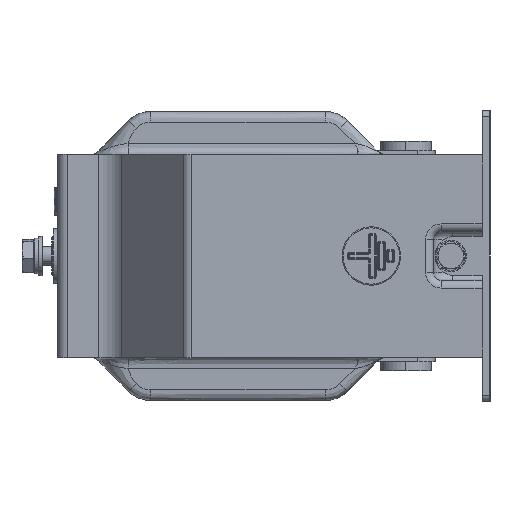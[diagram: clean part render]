
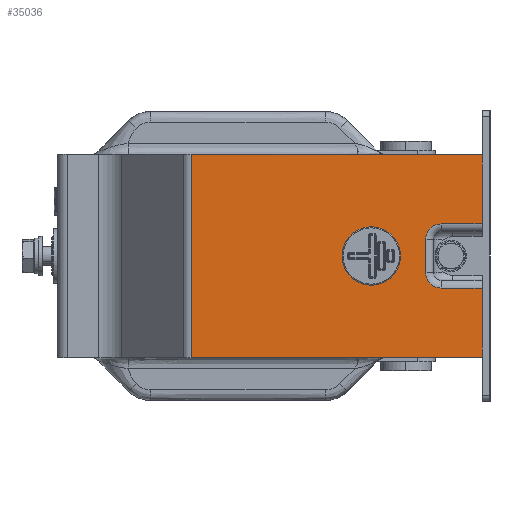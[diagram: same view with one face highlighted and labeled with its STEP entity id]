
A CAD part, left-side view. The second image highlights one B-rep face of the part: STEP entity #35036.
In plain terms, the highlighted planar face has unit normal (-1, 0, 0).
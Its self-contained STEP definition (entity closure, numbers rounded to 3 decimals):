
#50 = VECTOR ( 'NONE', #48100, 1000. ) ;
#58 = EDGE_CURVE ( 'NONE', #28257, #47570, #57443, .T. ) ;
#556 = AXIS2_PLACEMENT_3D ( 'NONE', #77695, #27725, #70510 ) ;
#1232 = CARTESIAN_POINT ( 'NONE',  ( -165.171, -88.907, -8.433 ) ) ;
#1970 = DIRECTION ( 'NONE',  ( 0., 0., 1. ) ) ;
#2813 = DIRECTION ( 'NONE',  ( 1., 0., 0. ) ) ;
#3089 = DIRECTION ( 'NONE',  ( 0., 0., 1. ) ) ;
#4465 = EDGE_CURVE ( 'NONE', #47570, #27252, #37593, .T. ) ;
#4760 = ORIENTED_EDGE ( 'NONE', *, *, #37218, .T. ) ;
#5373 = DIRECTION ( 'NONE',  ( 0., 1., 0. ) ) ;
#5819 = VECTOR ( 'NONE', #3089, 1000. ) ;
#5856 = VERTEX_POINT ( 'NONE', #32302 ) ;
#6320 = DIRECTION ( 'NONE',  ( 0., 1., 0. ) ) ;
#7568 = CARTESIAN_POINT ( 'NONE',  ( -165.171, -117.676, -16.369 ) ) ;
#8633 = LINE ( 'NONE', #40163, #5819 ) ;
#8844 = VECTOR ( 'NONE', #53177, 1000. ) ;
#9629 = VECTOR ( 'NONE', #5373, 1000. ) ;
#9776 = DIRECTION ( 'NONE',  ( 0., 0., -1. ) ) ;
#11292 = ORIENTED_EDGE ( 'NONE', *, *, #34760, .T. ) ;
#12463 = AXIS2_PLACEMENT_3D ( 'NONE', #51744, #15208, #46368 ) ;
#12892 = CARTESIAN_POINT ( 'NONE',  ( -165.171, -61.129, 0. ) ) ;
#14123 = CARTESIAN_POINT ( 'NONE',  ( -165.171, -117.676, 51.835 ) ) ;
#14411 = CIRCLE ( 'NONE', #72167, 7.937 ) ;
#14718 = CARTESIAN_POINT ( 'NONE',  ( -165.171, 30.741, 51.835 ) ) ;
#15208 = DIRECTION ( 'NONE',  ( 1., 0., 0. ) ) ;
#15993 = ORIENTED_EDGE ( 'NONE', *, *, #4465, .T. ) ;
#17665 = VERTEX_POINT ( 'NONE', #41436 ) ;
#19487 = VECTOR ( 'NONE', #39579, 1000. ) ;
#19879 = ORIENTED_EDGE ( 'NONE', *, *, #61930, .T. ) ;
#20893 = AXIS2_PLACEMENT_3D ( 'NONE', #52587, #71639, #77762 ) ;
#21512 = VERTEX_POINT ( 'NONE', #37732 ) ;
#21614 = VERTEX_POINT ( 'NONE', #7568 ) ;
#21789 = FACE_BOUND ( 'NONE', #66630, .T. ) ;
#22227 = CARTESIAN_POINT ( 'NONE',  ( -165.171, -88.907, -12.401 ) ) ;
#22651 = LINE ( 'NONE', #14718, #35042 ) ;
#22702 = PLANE ( 'NONE',  #20893 ) ;
#23731 = FACE_OUTER_BOUND ( 'NONE', #52917, .T. ) ;
#25153 = CARTESIAN_POINT ( 'NONE',  ( -165.171, -117.676, -51.835 ) ) ;
#25199 = EDGE_CURVE ( 'NONE', #68934, #67162, #53744, .T. ) ;
#26964 = DIRECTION ( 'NONE',  ( 0., 0., 1. ) ) ;
#27252 = VERTEX_POINT ( 'NONE', #72328 ) ;
#27725 = DIRECTION ( 'NONE',  ( 1., 0., 0. ) ) ;
#27780 = LINE ( 'NONE', #72938, #9629 ) ;
#27886 = VERTEX_POINT ( 'NONE', #25153 ) ;
#28257 = VERTEX_POINT ( 'NONE', #55465 ) ;
#29046 = CARTESIAN_POINT ( 'NONE',  ( -165.171, -88.907, 8.433 ) ) ;
#29366 = CARTESIAN_POINT ( 'NONE',  ( -165.171, -61.129, 14.881 ) ) ;
#31566 = DIRECTION ( 'NONE',  ( 1., 0., 0. ) ) ;
#32302 = CARTESIAN_POINT ( 'NONE',  ( -165.171, -61.129, -14.881 ) ) ;
#32398 = CARTESIAN_POINT ( 'NONE',  ( -165.171, -117.676, -19.841 ) ) ;
#34760 = EDGE_CURVE ( 'NONE', #71172, #5856, #69633, .T. ) ;
#35036 = ADVANCED_FACE ( 'NONE', ( #23731, #21789 ), #22702, .F. ) ;
#35042 = VECTOR ( 'NONE', #26964, 1000. ) ;
#36072 = EDGE_CURVE ( 'NONE', #56857, #27252, #22651, .T. ) ;
#37218 = EDGE_CURVE ( 'NONE', #17665, #67162, #68445, .T. ) ;
#37593 = LINE ( 'NONE', #57219, #19487 ) ;
#37732 = CARTESIAN_POINT ( 'NONE',  ( -165.171, -96.843, 16.369 ) ) ;
#39059 = ORIENTED_EDGE ( 'NONE', *, *, #61809, .T. ) ;
#39579 = DIRECTION ( 'NONE',  ( 0., 1., 0. ) ) ;
#40045 = CARTESIAN_POINT ( 'NONE',  ( -165.171, 30.741, -51.835 ) ) ;
#40150 = LINE ( 'NONE', #41172, #50 ) ;
#40163 = CARTESIAN_POINT ( 'NONE',  ( -165.171, -117.676, -19.841 ) ) ;
#40944 = ORIENTED_EDGE ( 'NONE', *, *, #52789, .T. ) ;
#41172 = CARTESIAN_POINT ( 'NONE',  ( -165.171, -117.676, -16.369 ) ) ;
#41436 = CARTESIAN_POINT ( 'NONE',  ( -165.171, -96.843, -16.369 ) ) ;
#41550 = CIRCLE ( 'NONE', #12463, 14.881 ) ;
#43058 = EDGE_CURVE ( 'NONE', #28257, #21512, #27780, .T. ) ;
#46368 = DIRECTION ( 'NONE',  ( 0., 0., -1. ) ) ;
#47570 = VERTEX_POINT ( 'NONE', #14123 ) ;
#48100 = DIRECTION ( 'NONE',  ( 0., -1., 0. ) ) ;
#49412 = ORIENTED_EDGE ( 'NONE', *, *, #43058, .F. ) ;
#50090 = EDGE_CURVE ( 'NONE', #17665, #21614, #40150, .T. ) ;
#51035 = AXIS2_PLACEMENT_3D ( 'NONE', #12892, #31566, #55556 ) ;
#51744 = CARTESIAN_POINT ( 'NONE',  ( -165.171, -61.129, 0. ) ) ;
#52587 = CARTESIAN_POINT ( 'NONE',  ( -165.171, -117.676, 0. ) ) ;
#52789 = EDGE_CURVE ( 'NONE', #5856, #71172, #41550, .T. ) ;
#52917 = EDGE_LOOP ( 'NONE', ( #19879, #66761, #4760, #62762, #39059, #49412, #70282, #15993, #72651, #67756 ) ) ;
#53177 = DIRECTION ( 'NONE',  ( 0., 0., -1. ) ) ;
#53744 = LINE ( 'NONE', #22227, #8844 ) ;
#55465 = CARTESIAN_POINT ( 'NONE',  ( -165.171, -117.676, 16.369 ) ) ;
#55556 = DIRECTION ( 'NONE',  ( 0., 0., -1. ) ) ;
#56357 = VECTOR ( 'NONE', #6320, 1000. ) ;
#56857 = VERTEX_POINT ( 'NONE', #40045 ) ;
#57219 = CARTESIAN_POINT ( 'NONE',  ( -165.171, -117.676, 51.835 ) ) ;
#57443 = LINE ( 'NONE', #32398, #76579 ) ;
#58971 = CARTESIAN_POINT ( 'NONE',  ( -165.171, -117.676, -51.835 ) ) ;
#60247 = LINE ( 'NONE', #58971, #56357 ) ;
#61809 = EDGE_CURVE ( 'NONE', #68934, #21512, #14411, .T. ) ;
#61930 = EDGE_CURVE ( 'NONE', #27886, #21614, #8633, .T. ) ;
#62529 = EDGE_CURVE ( 'NONE', #27886, #56857, #60247, .T. ) ;
#62762 = ORIENTED_EDGE ( 'NONE', *, *, #25199, .F. ) ;
#63736 = CARTESIAN_POINT ( 'NONE',  ( -165.171, -96.843, 8.433 ) ) ;
#66630 = EDGE_LOOP ( 'NONE', ( #40944, #11292 ) ) ;
#66761 = ORIENTED_EDGE ( 'NONE', *, *, #50090, .F. ) ;
#67162 = VERTEX_POINT ( 'NONE', #1232 ) ;
#67756 = ORIENTED_EDGE ( 'NONE', *, *, #62529, .F. ) ;
#68445 = CIRCLE ( 'NONE', #556, 7.937 ) ;
#68934 = VERTEX_POINT ( 'NONE', #29046 ) ;
#69633 = CIRCLE ( 'NONE', #51035, 14.881 ) ;
#70282 = ORIENTED_EDGE ( 'NONE', *, *, #58, .T. ) ;
#70510 = DIRECTION ( 'NONE',  ( 0., 0., -1. ) ) ;
#71172 = VERTEX_POINT ( 'NONE', #29366 ) ;
#71639 = DIRECTION ( 'NONE',  ( 1., 0., 0. ) ) ;
#72167 = AXIS2_PLACEMENT_3D ( 'NONE', #63736, #2813, #9776 ) ;
#72328 = CARTESIAN_POINT ( 'NONE',  ( -165.171, 30.741, 51.835 ) ) ;
#72651 = ORIENTED_EDGE ( 'NONE', *, *, #36072, .F. ) ;
#72938 = CARTESIAN_POINT ( 'NONE',  ( -165.171, -117.676, 16.369 ) ) ;
#76579 = VECTOR ( 'NONE', #1970, 1000. ) ;
#77695 = CARTESIAN_POINT ( 'NONE',  ( -165.171, -96.843, -8.433 ) ) ;
#77762 = DIRECTION ( 'NONE',  ( 0., 0., -1. ) ) ;
